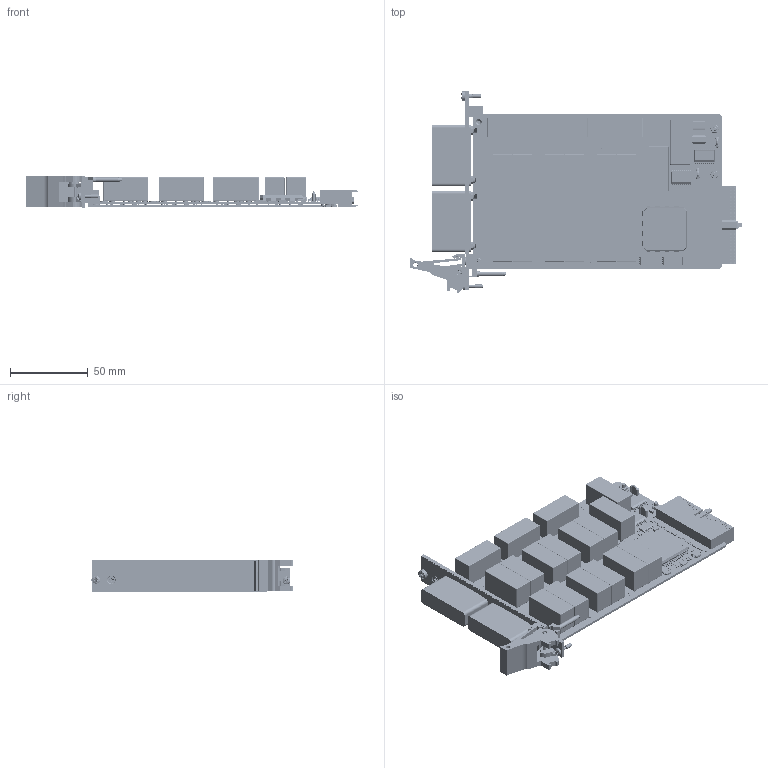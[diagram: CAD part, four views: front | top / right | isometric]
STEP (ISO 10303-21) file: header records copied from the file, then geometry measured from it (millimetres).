
FILE_DESCRIPTION (( 'STEP AP214' ), '1' );
FILE_NAME ('40-161-001 16A POWER RELAY CARD 16 X SPST.STEP', '2018-03-26T11:28:07', ( '' ), ( '' ), 'SwSTEP 2.0', 'SolidWorks 2017', '' );
FILE_SCHEMA (( 'AUTOMOTIVE_DESIGN' ));
Length unit declared in the file: millimetre
Products named in the file (52): C-IC-121 IC 93CS46-3 GR (SO8) SMT_No Text; C-FX-101 M2.5x6mm Pan Head Cross Recess Screw_ISO_ISO 7045 - M2.5 x 6 - Z --- 6N; C-FX-165 Handle Pin; P-FX-017 M2,5 Collar Posi-Slot Screw; C-RS-529 RES 10R 0603 1-16W 1% 100PPM; C-FX-495 Countersunk cross screw 2.5 X 8_M 2.5x08-966_VN; C-FX-165 Handle Body; C-SC-035 Transistor SMT; C-CP-034; C-FX-165 Handle Finger; C-FX-165 CPCI Ejector Handle; C-CN-502 Male Connector Mount; C-CP-141 CAP 10UF 1206 35V X5R 10%; C-PC-902 16A POWER RELAY MODULE; A-FP-270-L1 FP FUll Assy; C-FX-034 M2.5 Nylon Washer; Z-FX-2001 FP Fixing - Bush + Screw; C-CN-1251 MS114N-AA POSTRONIC; C-FX-028 Hex Nut M2.5 _C-FX-028 M2,5 Nut; L-FP-270 PXI 1 Slot 2 x MS Power Connector FP Label assy; 40-161-001 16A POWER RELAY CARD 16 X SPST; C-FP-270 FP PXI 1-Slot 2xMS Power Cons; C-PC-311 24 x SPST HV Card; C-BK-026 Bush Front Panel Mounting; C-SC-056 Diode 1SS355TE-17; C-IC-100 IC 74HCT273 SMD_Without Pckage Description; A-PC-902-V01 40-161 16A POWER RELAY MODULE; C-IC-101 IC 74HCT244 SMD; C-RS-146 Res 4K7 0603 1-16W 1% 100PPM; C-FX-233 Small Right Angel PCB Mounting Block; C-FX-224 M3 Red Fibre Washer; C-CN-502 female Mount pin; C-IC-194 EPROM M93C86WMN6P(S08)ST MICRO; C-FX-030 shakeproof washer; C-FX-042 Screw M2.5x6 CSK Pozi_M 2.5x06 - C-FX-042; C-RS-147 Res 100R 0603 1-16W 1% 100PPM; L-FX-165 PXI Handle Label; C-IC-124 16-Bit Constant Current Sink Driver; A-FP-270 PXI 1 Slot 2 x MS Power Connector FP + Label Assy; C-RS-152 Res 10K 0603 1-16W 1% 300PPM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
Assembly tree (176 placements, depth 5):
  40-161-001 16A POWER RELAY CARD 16 X SPST
    A-PC-902-V01 40-161 16A POWER RELAY MODULE
      A-PC-902-# 40-161 16A POWER RELAY MODULE
        C-PC-902 16A POWER RELAY MODULE
        C-SC-056 Diode 1SS355TE-17  x16
        C-CP-034  x22
        C-CP-141 CAP 10UF 1206 35V X5R 10%  x5
        C-CP-104 CAP 22000uF 3 Terminal CAP  x2
        C-RS-320 Res 330R SIZE 0603 SMT 1%  x2
        C-RS-147 Res 100R 0603 1-16W 1% 100PPM
        C-IC-124 16-Bit Constant Current Sink Driver  x2
        C-CN-355 Compact pci connector 3
        C-IC-219 PLX PCI9052
        C-RS-102 RES 4x10R 1206 1-16W 5% 200PPM  x12
        C-SC-035 Transistor SMT
        C-RS-079 Res N-W 4x10K 1206 CRA3A4E10K  x2
        C-IC-121 IC 93CS46-3 GR (SO8) SMT_No Text
        C-IC-087 IC 74HCT32D Logic IC Smt_No Text
        C-IC-100 IC 74HCT273 SMD_Without Pckage Description
        C-IC-101 IC 74HCT244 SMD
        C-IC-194 EPROM M93C86WMN6P(S08)ST MICRO  x2
        C-RS-146 Res 4K7 0603 1-16W 1% 100PPM  x2
        C-RS-529 RES 10R 0603 1-16W 1% 100PPM
        C-RS-152 Res 10K 0603 1-16W 1% 300PPM  x3
      C-RL-319 SPST 16A 5V  x17
    C-PC-311 24 x SPST HV Card
    A-FP-270-L1 FP FUll Assy
      A-FP-270 PXI 1 Slot 2 x MS Power Connector FP + Label Assy
        C-FP-270 FP PXI 1-Slot 2xMS Power Cons
          C-BP-015 PXI 3U x 1 Slot Blank Panel
        L-FP-270 PXI 1 Slot 2 x MS Power Connector FP Label assy
          L-FP-270-# PXI 1 Slot 2 x MS Power Connector FP Label
      C-FX-165 CPCI Ejector Handle
        C-FX-165 Handle Body
        C-FX-165 Handle Finger
        C-FX-165 Handle Pin
        P-FX-017 M2,5 Collar Posi-Slot Screw
        L-FX-165 PXI Handle Label
      Z-FX-2001 FP Fixing - Bush + Screw
        C-BK-026 Bush Front Panel Mounting
        P-FX-017 M2,5 Collar Posi-Slot Screw
      C-FX-233 Small Right Angel PCB Mounting Block
      C-FX-042 Screw M2.5x6 CSK Pozi_M 2.5x06 - C-FX-042
      C-FX-101 M2.5x6mm Pan Head Cross Recess Screw_ISO_ISO 7045 - M2.5 x 6 - Z --- 6N
    C-FX-034 M2.5 Nylon Washer  x4
    C-FX-495 Countersunk cross screw 2.5 X 8_M 2.5x08-966_VN  x4
    C-FX-028 Hex Nut M2.5 _C-FX-028 M2,5 Nut  x6
    C-FX-224 M3 Red Fibre Washer  x2
    C-CN-502 female Mount pin  x2
    C-CN-502 Male Connector Mount  x2
    C-CN-1251 MS114N-AA POSTRONIC  x32
    C-FX-030 shakeproof washer  x4
    C-CN-502  Positronic Connector Body  x2
Bounding box: 213.93 x 129.67 x 20 mm (x, y, z)
Volume: 214304.3 mm3; surface area: 187099.4 mm2
Topology: 174 solids, 197 shells, 16278 faces, 40686 edges, 25343 vertices
Faces by surface type: plane 8403, cylinder 4941, cone 1109, torus 1062, bspline 493, sphere 270
Entity records: 359239 total; most frequent: CARTESIAN_POINT 65852, DIRECTION 49350, ORIENTED_EDGE 49258, EDGE_CURVE 24633, VECTOR 17368, LINE 17368, AXIS2_PLACEMENT_3D 15991, VERTEX_POINT 15889
